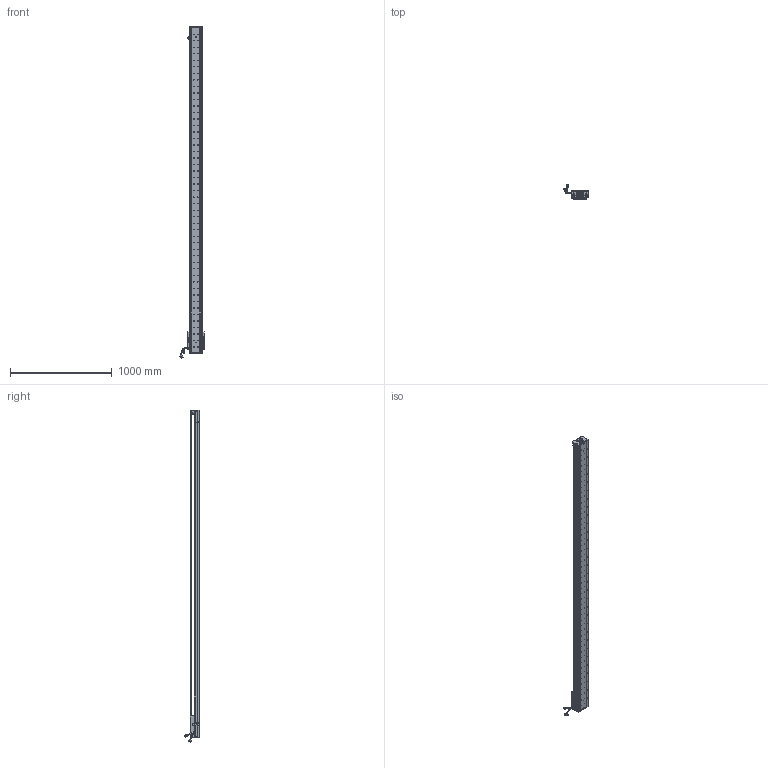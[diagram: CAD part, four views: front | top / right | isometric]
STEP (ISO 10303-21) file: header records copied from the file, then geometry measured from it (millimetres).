
FILE_DESCRIPTION (( 'STEP AP203' ), '1' );
FILE_NAME ('Z2-RY140D-1-L500-B-K.SLDASM_2950.step', '2021-05-17T07:51:58', ( '盈信电脑' ), ( '东莞市道滘镇水果街19号' ), 'SwSTEP 2.0', 'SolidWorks 2016', '' );
FILE_SCHEMA (( 'CONFIG_CONTROL_DESIGN' ));
Length unit declared in the file: millimetre
Products named in the file (36): 覜茼ん672; SEAL; SCALE-Part-2; 140-Z-臏賑輸盄裔(21遴); 榋妏寠巭燃_暯_M2_2; Z2-RY140D-1-L500-B-K.SLDASM_2950; SCREW-M1.6-2; PBU_SHEET; SCREW-M1.6; HOLDER0; SCALE; LABEL; 080黍杅芛假蚾釱21遴; HARNESS; COVER-Part-1; Z-RY140詩湍狟揤裔; Z2-RY140圉猾敕臏賑輸(21遴); SCALE-Part-1; SCREW-M1.6-1; HARNESS-Part-2; HARNESS-Part-1; SEAL-Part-1; Z-RY140感应器672光电感应片; PSLH080_PSLF2; LABEL-Part-1; Z2-RY140-L500直线电机模组底座_2950; SCREW-M1.7-1; 140蚥薯蝶輸; 140雄赽晤鎢ん堤盄; SCREW-M1.7; SHIELDPLATE; SCREW-M1.6-3; COVER; Z-RY140詩湍奻揤裔; Z2-RY140-L500詩湍100mm遵_2950; Z-140詩湍傷裔啣
Assembly tree (41 placements, depth 4):
  Z2-RY140D-1-L500-B-K.SLDASM_2950
    Z2-RY140-L500直线电机模组底座_2950
    Z-RY140感应器672光电感应片
    Z2-RY140圉猾敕臏賑輸(21遴)
    覜茼ん672  x3
    Z2-RY140-L500詩湍100mm遵_2950
    PSLH080_PSLF2
      SCALE
        SCALE-Part-1
        SCALE-Part-2
      HARNESS
        HARNESS-Part-1
        HARNESS-Part-2
      LABEL
        LABEL-Part-1
      COVER
        COVER-Part-1
      SEAL
        SEAL-Part-1
      榋妏寠巭燃_暯_M2_2
      SHIELDPLATE
      SCREW-M1.7
      SCREW-M1.7-1
      PBU_SHEET
      SCREW-M1.6
      SCREW-M1.6-1
      SCREW-M1.6-2
      SCREW-M1.6-3
      HOLDER0
    080黍杅芛假蚾釱21遴
    140-Z-臏賑輸盄裔(21遴)
    Z-140詩湍傷裔啣  x2
    Z-RY140詩湍狟揤裔  x2
    Z-RY140詩湍奻揤裔  x2
    140蚥薯蝶輸  x2
    140雄赽晤鎢ん堤盄
Bounding box: 239.79 x 143.77 x 3260.87 mm (x, y, z)
Volume: 10042776.7 mm3; surface area: 2639049.1 mm2
Topology: 36 solids, 36 shells, 4504 faces, 12341 edges, 7818 vertices
Faces by surface type: cylinder 2498, plane 1444, cone 430, torus 79, bspline 53
Entity records: 145549 total; most frequent: CARTESIAN_POINT 42259, ORIENTED_EDGE 21530, DIRECTION 19597, EDGE_CURVE 10765, AXIS2_PLACEMENT_3D 7304, VERTEX_POINT 6986, VECTOR 4989, LINE 4989
